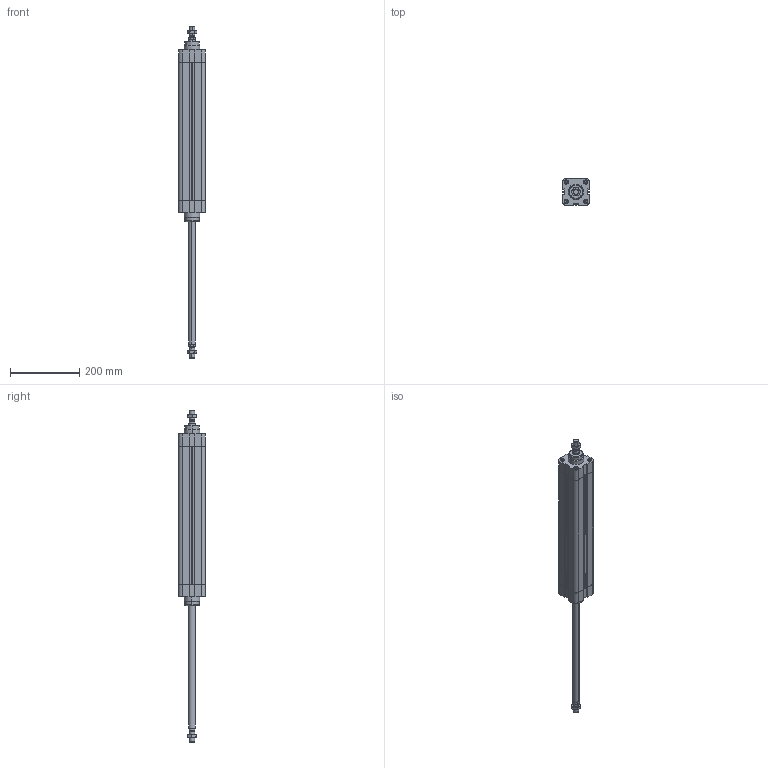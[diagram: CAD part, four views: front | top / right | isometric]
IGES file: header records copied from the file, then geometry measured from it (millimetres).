
Global section: file name: No Iges File Name specified; native system: Autodesk Inventor 2010; preprocessor: AutoDesk Inventor Iges Exporter R2010; author: rivolro1; date: 20090707.105813; units: millimetre
Bounding box: 77.5 x 77.5 x 959 mm (x, y, z)
Volume: 1916255.6 mm3; surface area: 372093.9 mm2
Topology: 6 solids, 6 shells, 343 faces, 810 edges, 508 vertices
Faces by surface type: plane 137, bspline 86, cylinder 58, cone 38, revolution 20, torus 4
